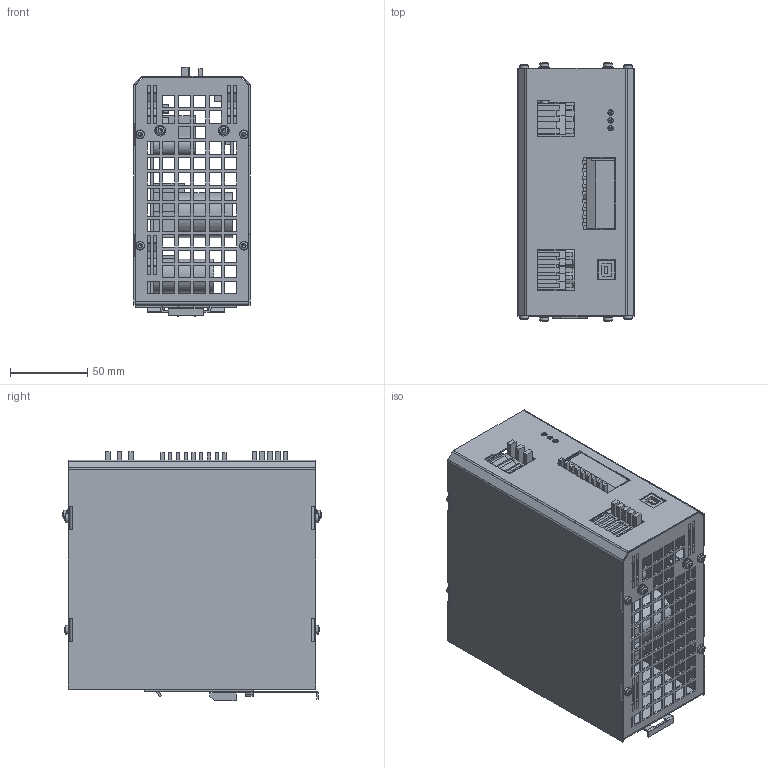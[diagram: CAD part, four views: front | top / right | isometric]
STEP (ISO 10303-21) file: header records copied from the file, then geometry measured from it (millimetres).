
FILE_DESCRIPTION(/* description */ (''),/* implementation_level */ '2;1');
FILE_NAME(/* name */ 'C:\VAULT_WORKSPACE\Designs\EE\0616G01001\0616G01-0001.stp',/* time_stamp */ '2021-06-14T14:37:31+02:00',/* author */ ('mhe'),/* organization */ (''),/* preprocessor_version */ 'ST-DEVELOPER v18.1',/* originating_system */ 'Autodesk Inventor 2021',/* authorisation */ '');
FILE_SCHEMA (('AUTOMOTIVE_DESIGN { 1 0 10303 214 3 1 1 }'));
Length unit declared in the file: millimetre
Products named in the file (5): 0616G01-0001; 0616G01; DIN7981 2,9x6,5 ; DIN6900 M3x6-gvz; 70x65x1,5
Assembly tree (14 placements, depth 2):
  0616G01-0001
    0616G01
    DIN7981 2,9x6,5   x8
    DIN6900 M3x6-gvz  x4
    70x65x1,5
Bounding box: 75 x 167.4 x 161.07 mm (x, y, z)
Volume: 267324.6 mm3; surface area: 300792.1 mm2
Topology: 103 solids, 103 shells, 2023 faces, 5352 edges, 3544 vertices
Faces by surface type: plane 1461, cylinder 398, cone 108, torus 41, sphere 12, bspline 3
Full cylindrical faces by diameter (mm): 2.3 x4, 2.46 x4, 2.5 x15, 2.693 x12, 2.75 x4, 3 x22, 3.2 x8, 3.5 x3, 3.6 x2, 4 x6, 4.2 x8, 5.05 x1, 5.6 x12, 7 x4, 10 x2, 13 x3, 22 x1
Entity records: 53757 total; most frequent: CARTESIAN_POINT 10012, ORIENTED_EDGE 9020, DIRECTION 8326, EDGE_CURVE 4510, LINE 3948, VECTOR 3948, VERTEX_POINT 2994, AXIS2_PLACEMENT_3D 2189
